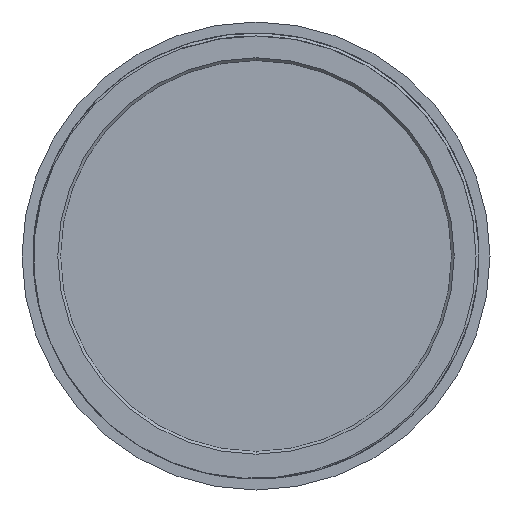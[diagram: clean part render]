
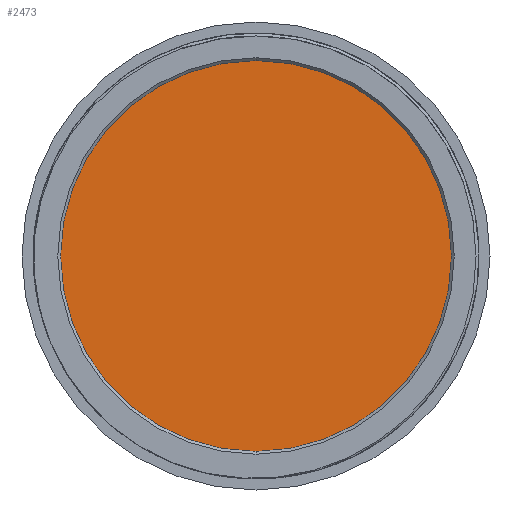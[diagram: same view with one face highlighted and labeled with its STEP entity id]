
A CAD part, front view. The second image highlights one B-rep face of the part: STEP entity #2473.
In plain terms, the highlighted planar face has unit normal (0, -1, 0).
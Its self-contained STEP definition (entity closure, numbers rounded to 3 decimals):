
#363 = VERTEX_POINT ( 'NONE', #1931 ) ;
#401 = AXIS2_PLACEMENT_3D ( 'NONE', #689, #2545, #494 ) ;
#456 = DIRECTION ( 'NONE',  ( 0., 0., 1. ) ) ;
#494 = DIRECTION ( 'NONE',  ( 0., 0., 1. ) ) ;
#498 = CIRCLE ( 'NONE', #2266, 18.5 ) ;
#621 = ORIENTED_EDGE ( 'NONE', *, *, #1439, .F. ) ;
#689 = CARTESIAN_POINT ( 'NONE',  ( 0., 2.3, 0. ) ) ;
#770 = CARTESIAN_POINT ( 'NONE',  ( 0., 2.3, -18.5 ) ) ;
#931 = CARTESIAN_POINT ( 'NONE',  ( 0., 2.3, 0. ) ) ;
#1002 = VERTEX_POINT ( 'NONE', #770 ) ;
#1140 = FACE_OUTER_BOUND ( 'NONE', #2292, .T. ) ;
#1378 = DIRECTION ( 'NONE',  ( 0., 1., 0. ) ) ;
#1408 = ORIENTED_EDGE ( 'NONE', *, *, #2387, .F. ) ;
#1439 = EDGE_CURVE ( 'NONE', #363, #1002, #498, .T. ) ;
#1858 = PLANE ( 'NONE',  #2118 ) ;
#1896 = DIRECTION ( 'NONE',  ( 0., 1., 0. ) ) ;
#1931 = CARTESIAN_POINT ( 'NONE',  ( 0., 2.3, 18.5 ) ) ;
#2118 = AXIS2_PLACEMENT_3D ( 'NONE', #2732, #1378, #2281 ) ;
#2266 = AXIS2_PLACEMENT_3D ( 'NONE', #931, #1896, #456 ) ;
#2281 = DIRECTION ( 'NONE',  ( 0., 0., 1. ) ) ;
#2292 = EDGE_LOOP ( 'NONE', ( #1408, #621 ) ) ;
#2387 = EDGE_CURVE ( 'NONE', #1002, #363, #2602, .T. ) ;
#2473 = ADVANCED_FACE ( 'NONE', ( #1140 ), #1858, .F. ) ;
#2545 = DIRECTION ( 'NONE',  ( 0., 1., 0. ) ) ;
#2602 = CIRCLE ( 'NONE', #401, 18.5 ) ;
#2732 = CARTESIAN_POINT ( 'NONE',  ( 0., 2.3, 0. ) ) ;
